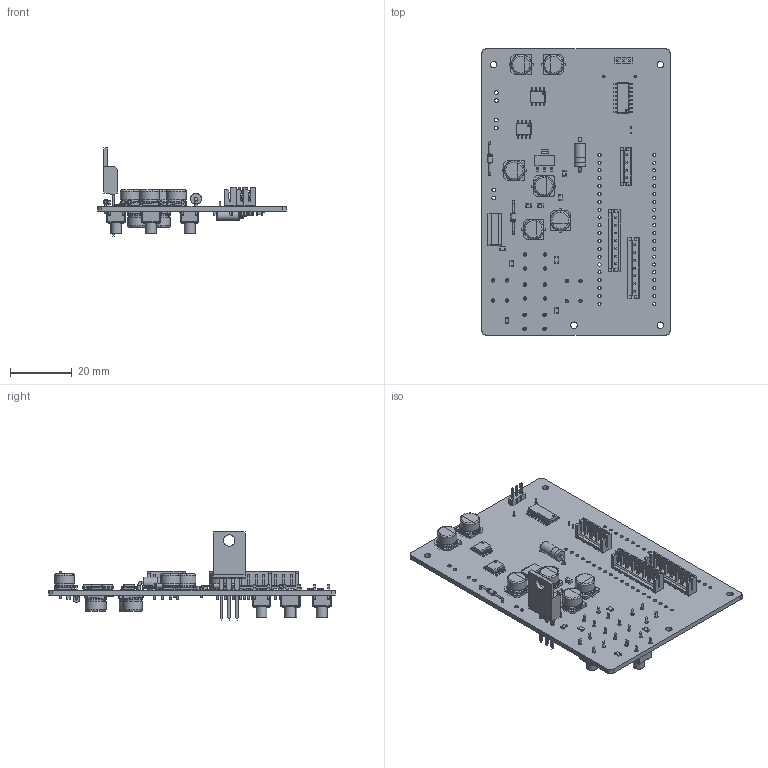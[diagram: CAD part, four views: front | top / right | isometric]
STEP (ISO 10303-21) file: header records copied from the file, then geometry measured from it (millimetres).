
FILE_DESCRIPTION(('KiCad electronic assembly'),'2;1');
FILE_NAME('SI4732RECIVER_PCB_082023.step','2024-08-15T00:20:05',( 'Pcbnew'),('Kicad'),'Open CASCADE STEP processor 7.8', 'KiCad to STEP converter','Unknown');
FILE_SCHEMA(('AUTOMOTIVE_DESIGN { 1 0 10303 214 1 1 1 1 }'));
Length unit declared in the file: millimetre
Products named in the file (34): SI4732RECIVER_PCB_082023 1; R_0805_2012Metric; D_DO-34_SOD68_P10.16mm_Horizontal; SOIC-8_3.9x4.9mm_P1.27mm; SOIC_8_39x49mm_P127mm; CP_Elec_6.3x5.2; CP_Elec_63x52; SOIC-16_3.9x9.9mm_P1.27mm; SOIC_16_39x99mm_P127mm; SOT-223; SOT_223; L_0805_2012Metric; PinHeader_1x03_P2.00mm_Vertical; PinHeader_1x03_P200mm_Vertical; JST_EH_B7B-EH-A_1x07_P2.50mm_Vertical; JST_B7B_EH_A; JST_EH_B4B-EH-A_1x04_P2.50mm_Vertical; JST_B4B_EH_A; TO-220-3_Vertical; D_DO-15_P10.16mm_Horizontal; SW_PUSH_6mm_H7.3mm; SW_PUSH_6mm_h7.3mm; L_Axial_L5.3mm_D2.2mm_P10.16mm_Horizontal_Vishay_IM-1; Crystal_C38-LF_D3.0mm_L8.0mm_Horizontal; C38_LF_Horizontal; C_0805_2012Metric; SI4732RECIVER_PCB_082023_PCB
Assembly tree (62 placements, depth 3):
  SI4732RECIVER_PCB_082023 1
    R_0805_2012Metric  x8
      R_0805_2012Metric
    D_DO-34_SOD68_P10.16mm_Horizontal  x2
      D_DO-34_SOD68_P10.16mm_Horizontal
    SOIC-8_3.9x4.9mm_P1.27mm  x2
      SOIC_8_39x49mm_P127mm
    CP_Elec_6.3x5.2  x10
      CP_Elec_63x52
    SOIC-16_3.9x9.9mm_P1.27mm
      SOIC_16_39x99mm_P127mm
    SOT-223
      SOT_223
    L_0805_2012Metric  x4
      L_0805_2012Metric
    PinHeader_1x03_P2.00mm_Vertical
      PinHeader_1x03_P200mm_Vertical
    JST_EH_B7B-EH-A_1x07_P2.50mm_Vertical  x2
      JST_B7B_EH_A
    JST_EH_B4B-EH-A_1x04_P2.50mm_Vertical
      JST_B4B_EH_A
    TO-220-3_Vertical
      TO-220-3_Vertical
    D_DO-15_P10.16mm_Horizontal
      D_DO-15_P10.16mm_Horizontal
    SW_PUSH_6mm_H7.3mm  x5
      SW_PUSH_6mm_h7.3mm
    L_Axial_L5.3mm_D2.2mm_P10.16mm_Horizontal_Vishay_IM-1
      L_Axial_L5.3mm_D2.2mm_P10.16mm_Horizontal_Vishay_IM-1
    Crystal_C38-LF_D3.0mm_L8.0mm_Horizontal
      C38_LF_Horizontal
    C_0805_2012Metric  x4
      C_0805_2012Metric
    SI4732RECIVER_PCB_082023_PCB
Bounding box: 60.96 x 92.71 x 28.52 mm (x, y, z)
Volume: 12718.5 mm3; surface area: 18759.3 mm2
Topology: 46 solids, 46 shells, 2889 faces, 7391 edges, 4710 vertices
Faces by surface type: plane 1895, cylinder 769, bspline 140, torus 58, revolution 27
Full cylindrical faces by diameter (mm): 0.3 x4, 0.5 x6, 0.55 x8, 0.6 x3, 0.688 x4, 0.75 x4, 0.8 x5, 0.9 x4, 0.95 x18, 1 x60, 1.1 x23, 1.2 x8, 1.6 x4, 1.61 x2, 1.935 x10, 2.1 x4, 2.2 x2, 3 x3, 3.5 x5, 3.6 x2, 3.62 x1, 3.735 x1, 6.3 x20
Entity records: 53163 total; most frequent: CARTESIAN_POINT 9547, ORIENTED_EDGE 7064, DIRECTION 6859, EDGE_CURVE 3532, LINE 2717, VECTOR 2717, VERTEX_POINT 2239, AXIS2_PLACEMENT_3D 2063
